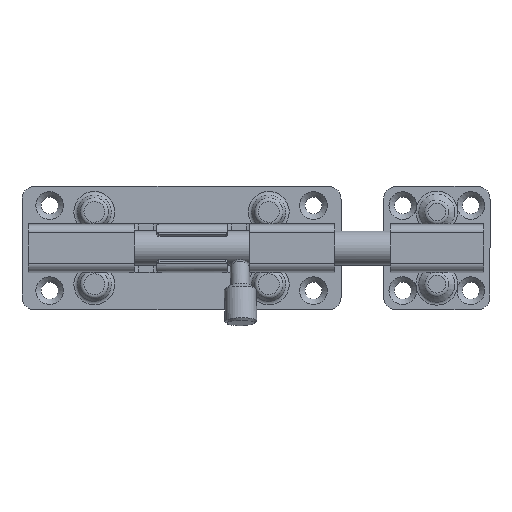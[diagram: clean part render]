
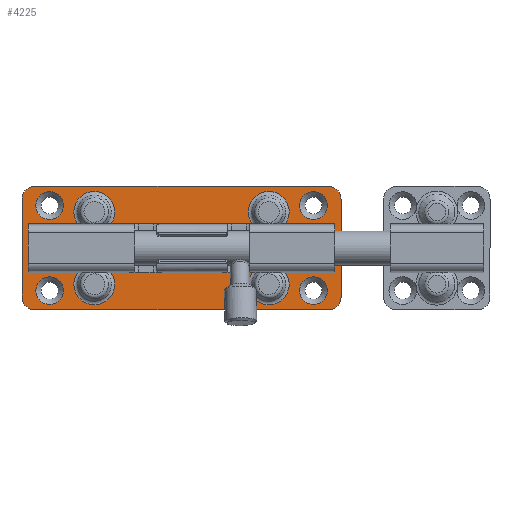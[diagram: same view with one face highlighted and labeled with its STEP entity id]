
A CAD part, top view. The second image highlights one B-rep face of the part: STEP entity #4225.
In plain terms, the highlighted planar face has unit normal (0, 0, 1).
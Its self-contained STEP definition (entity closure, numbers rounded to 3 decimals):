
#204=FACE_BOUND('',#752,.T.);
#205=FACE_BOUND('',#753,.T.);
#206=FACE_BOUND('',#754,.T.);
#207=FACE_BOUND('',#755,.T.);
#208=FACE_BOUND('',#756,.T.);
#209=FACE_BOUND('',#757,.T.);
#210=FACE_BOUND('',#758,.T.);
#211=FACE_BOUND('',#759,.T.);
#256=CIRCLE('',#4440,3.);
#258=CIRCLE('',#4443,3.25);
#262=CIRCLE('',#4451,4.804);
#268=CIRCLE('',#4466,3.);
#270=CIRCLE('',#4470,3.25);
#274=CIRCLE('',#4478,4.804);
#280=CIRCLE('',#4493,3.);
#282=CIRCLE('',#4496,3.25);
#286=CIRCLE('',#4504,4.804);
#292=CIRCLE('',#4520,3.);
#294=CIRCLE('',#4524,4.804);
#295=CIRCLE('',#4525,3.25);
#485=FACE_OUTER_BOUND('',#751,.T.);
#751=EDGE_LOOP('',(#2999,#3000,#3001,#3002,#3003,#3004,#3005,#3006));
#752=EDGE_LOOP('',(#3007));
#753=EDGE_LOOP('',(#3008,#3009,#3010,#3011));
#754=EDGE_LOOP('',(#3012,#3013,#3014,#3015));
#755=EDGE_LOOP('',(#3016));
#756=EDGE_LOOP('',(#3017));
#757=EDGE_LOOP('',(#3018,#3019,#3020,#3021));
#758=EDGE_LOOP('',(#3022,#3023,#3024,#3025));
#759=EDGE_LOOP('',(#3026));
#997=LINE('',#6145,#1335);
#999=LINE('',#6215,#1337);
#1002=LINE('',#6225,#1340);
#1006=LINE('',#6274,#1344);
#1011=LINE('',#6354,#1349);
#1015=LINE('',#6370,#1353);
#1019=LINE('',#6392,#1357);
#1020=LINE('',#6416,#1358);
#1025=LINE('',#6496,#1363);
#1029=LINE('',#6512,#1367);
#1032=LINE('',#6548,#1370);
#1037=LINE('',#6568,#1375);
#1039=LINE('',#6638,#1377);
#1042=LINE('',#6648,#1380);
#1046=LINE('',#6675,#1384);
#1048=LINE('',#6678,#1386);
#1335=VECTOR('',#4887,1.959);
#1337=VECTOR('',#4893,7.);
#1340=VECTOR('',#4898,1.959);
#1344=VECTOR('',#4948,1.959);
#1349=VECTOR('',#4957,7.);
#1353=VECTOR('',#4963,1.959);
#1357=VECTOR('',#4991,69.);
#1358=VECTOR('',#5016,1.959);
#1363=VECTOR('',#5025,7.);
#1367=VECTOR('',#5031,1.959);
#1370=VECTOR('',#5080,23.);
#1375=VECTOR('',#5087,1.959);
#1377=VECTOR('',#5093,7.);
#1380=VECTOR('',#5098,1.959);
#1384=VECTOR('',#5126,69.);
#1386=VECTOR('',#5130,23.);
#1741=VERTEX_POINT('',#6129);
#1745=VERTEX_POINT('',#6143);
#1752=VERTEX_POINT('',#6214);
#1754=VERTEX_POINT('',#6220);
#1758=VERTEX_POINT('',#6243);
#1759=VERTEX_POINT('',#6244);
#1762=VERTEX_POINT('',#6252);
#1767=VERTEX_POINT('',#6268);
#1768=VERTEX_POINT('',#6273);
#1778=VERTEX_POINT('',#6353);
#1780=VERTEX_POINT('',#6359);
#1784=VERTEX_POINT('',#6382);
#1785=VERTEX_POINT('',#6383);
#1788=VERTEX_POINT('',#6394);
#1793=VERTEX_POINT('',#6410);
#1794=VERTEX_POINT('',#6415);
#1804=VERTEX_POINT('',#6495);
#1806=VERTEX_POINT('',#6501);
#1810=VERTEX_POINT('',#6524);
#1811=VERTEX_POINT('',#6525);
#1814=VERTEX_POINT('',#6533);
#1819=VERTEX_POINT('',#6552);
#1823=VERTEX_POINT('',#6566);
#1830=VERTEX_POINT('',#6637);
#1832=VERTEX_POINT('',#6643);
#1836=VERTEX_POINT('',#6666);
#1837=VERTEX_POINT('',#6667);
#1840=VERTEX_POINT('',#6680);
#2165=EDGE_CURVE('',#1741,#1745,#997,.T.);
#2173=EDGE_CURVE('',#1745,#1752,#999,.T.);
#2177=EDGE_CURVE('',#1752,#1754,#1002,.T.);
#2185=EDGE_CURVE('',#1758,#1759,#256,.T.);
#2189=EDGE_CURVE('',#1762,#1762,#258,.T.);
#2193=EDGE_CURVE('',#1741,#1754,#262,.T.);
#2195=EDGE_CURVE('',#1767,#1768,#1006,.T.);
#2207=EDGE_CURVE('',#1768,#1778,#1011,.T.);
#2213=EDGE_CURVE('',#1778,#1780,#1015,.T.);
#2219=EDGE_CURVE('',#1784,#1785,#268,.T.);
#2224=EDGE_CURVE('',#1785,#1759,#1019,.T.);
#2225=EDGE_CURVE('',#1788,#1788,#270,.T.);
#2229=EDGE_CURVE('',#1767,#1780,#274,.T.);
#2231=EDGE_CURVE('',#1793,#1794,#1020,.T.);
#2243=EDGE_CURVE('',#1794,#1804,#1025,.T.);
#2249=EDGE_CURVE('',#1804,#1806,#1029,.T.);
#2255=EDGE_CURVE('',#1810,#1811,#280,.T.);
#2259=EDGE_CURVE('',#1814,#1814,#282,.T.);
#2263=EDGE_CURVE('',#1793,#1806,#286,.T.);
#2264=EDGE_CURVE('',#1758,#1810,#1032,.T.);
#2271=EDGE_CURVE('',#1819,#1823,#1037,.T.);
#2279=EDGE_CURVE('',#1823,#1830,#1039,.T.);
#2283=EDGE_CURVE('',#1830,#1832,#1042,.T.);
#2291=EDGE_CURVE('',#1836,#1837,#292,.T.);
#2295=EDGE_CURVE('',#1837,#1811,#1046,.T.);
#2297=EDGE_CURVE('',#1836,#1784,#1048,.T.);
#2298=EDGE_CURVE('',#1819,#1832,#294,.T.);
#2299=EDGE_CURVE('',#1840,#1840,#295,.T.);
#2999=ORIENTED_EDGE('',*,*,#2291,.F.);
#3000=ORIENTED_EDGE('',*,*,#2297,.T.);
#3001=ORIENTED_EDGE('',*,*,#2219,.T.);
#3002=ORIENTED_EDGE('',*,*,#2224,.T.);
#3003=ORIENTED_EDGE('',*,*,#2185,.F.);
#3004=ORIENTED_EDGE('',*,*,#2264,.T.);
#3005=ORIENTED_EDGE('',*,*,#2255,.T.);
#3006=ORIENTED_EDGE('',*,*,#2295,.F.);
#3007=ORIENTED_EDGE('',*,*,#2225,.F.);
#3008=ORIENTED_EDGE('',*,*,#2213,.F.);
#3009=ORIENTED_EDGE('',*,*,#2207,.F.);
#3010=ORIENTED_EDGE('',*,*,#2195,.F.);
#3011=ORIENTED_EDGE('',*,*,#2229,.T.);
#3012=ORIENTED_EDGE('',*,*,#2177,.T.);
#3013=ORIENTED_EDGE('',*,*,#2193,.F.);
#3014=ORIENTED_EDGE('',*,*,#2165,.T.);
#3015=ORIENTED_EDGE('',*,*,#2173,.T.);
#3016=ORIENTED_EDGE('',*,*,#2189,.T.);
#3017=ORIENTED_EDGE('',*,*,#2259,.F.);
#3018=ORIENTED_EDGE('',*,*,#2249,.F.);
#3019=ORIENTED_EDGE('',*,*,#2243,.F.);
#3020=ORIENTED_EDGE('',*,*,#2231,.F.);
#3021=ORIENTED_EDGE('',*,*,#2263,.T.);
#3022=ORIENTED_EDGE('',*,*,#2283,.T.);
#3023=ORIENTED_EDGE('',*,*,#2298,.F.);
#3024=ORIENTED_EDGE('',*,*,#2271,.T.);
#3025=ORIENTED_EDGE('',*,*,#2279,.T.);
#3026=ORIENTED_EDGE('',*,*,#2299,.T.);
#4060=PLANE('',#4523);
#4225=ADVANCED_FACE('',(#485,#204,#205,#206,#207,#208,#209,#210,#211),#4060,
 .T.);
#4440=AXIS2_PLACEMENT_3D('',#6245,#4918,#4919);
#4443=AXIS2_PLACEMENT_3D('',#6253,#4926,#4927);
#4451=AXIS2_PLACEMENT_3D('',#6264,#4942,#4943);
#4466=AXIS2_PLACEMENT_3D('',#6384,#4982,#4983);
#4470=AXIS2_PLACEMENT_3D('',#6395,#4994,#4995);
#4478=AXIS2_PLACEMENT_3D('',#6406,#5010,#5011);
#4493=AXIS2_PLACEMENT_3D('',#6526,#5050,#5051);
#4496=AXIS2_PLACEMENT_3D('',#6534,#5058,#5059);
#4504=AXIS2_PLACEMENT_3D('',#6545,#5074,#5075);
#4520=AXIS2_PLACEMENT_3D('',#6668,#5118,#5119);
#4523=AXIS2_PLACEMENT_3D('',#6677,#5128,#5129);
#4524=AXIS2_PLACEMENT_3D('',#6679,#5131,#5132);
#4525=AXIS2_PLACEMENT_3D('',#6681,#5133,#5134);
#4887=DIRECTION('',(0.,-1.,0.));
#4893=DIRECTION('',(-1.,0.,0.));
#4898=DIRECTION('',(0.,1.,0.));
#4918=DIRECTION('center_axis',(0.,0.,-1.));
#4919=DIRECTION('ref_axis',(-0.707,0.707,0.));
#4926=DIRECTION('center_axis',(0.,0.,-1.));
#4927=DIRECTION('ref_axis',(-1.,0.,0.));
#4942=DIRECTION('center_axis',(0.,0.,1.));
#4943=DIRECTION('ref_axis',(-1.,0.,0.));
#4948=DIRECTION('',(0.,-1.,0.));
#4957=DIRECTION('',(1.,0.,0.));
#4963=DIRECTION('',(0.,1.,0.));
#4982=DIRECTION('center_axis',(0.,0.,1.));
#4983=DIRECTION('ref_axis',(0.707,0.707,0.));
#4991=DIRECTION('',(-1.,0.,0.));
#4994=DIRECTION('center_axis',(0.,0.,1.));
#4995=DIRECTION('ref_axis',(1.,0.,0.));
#5010=DIRECTION('center_axis',(0.,0.,-1.));
#5011=DIRECTION('ref_axis',(1.,0.,0.));
#5016=DIRECTION('',(0.,1.,0.));
#5025=DIRECTION('',(-1.,0.,0.));
#5031=DIRECTION('',(0.,-1.,0.));
#5050=DIRECTION('center_axis',(0.,0.,1.));
#5051=DIRECTION('ref_axis',(-0.707,-0.707,0.));
#5058=DIRECTION('center_axis',(0.,0.,1.));
#5059=DIRECTION('ref_axis',(-1.,0.,0.));
#5074=DIRECTION('center_axis',(0.,0.,-1.));
#5075=DIRECTION('ref_axis',(-1.,0.,0.));
#5080=DIRECTION('',(0.,-1.,0.));
#5087=DIRECTION('',(0.,1.,0.));
#5093=DIRECTION('',(1.,0.,0.));
#5098=DIRECTION('',(0.,-1.,0.));
#5118=DIRECTION('center_axis',(0.,0.,-1.));
#5119=DIRECTION('ref_axis',(0.707,-0.707,0.));
#5126=DIRECTION('',(-1.,0.,0.));
#5128=DIRECTION('center_axis',(0.,0.,1.));
#5129=DIRECTION('ref_axis',(1.,0.,0.));
#5130=DIRECTION('',(0.,1.,0.));
#5131=DIRECTION('center_axis',(0.,0.,1.));
#5132=DIRECTION('ref_axis',(1.,0.,0.));
#5133=DIRECTION('center_axis',(0.,0.,-1.));
#5134=DIRECTION('ref_axis',(1.,0.,0.));
#6129=CARTESIAN_POINT('',(-17.,5.209,1.5));
#6143=CARTESIAN_POINT('',(-17.,3.25,1.5));
#6145=CARTESIAN_POINT('',(-17.,5.25,1.5));
#6214=CARTESIAN_POINT('',(-24.,3.25,1.5));
#6215=CARTESIAN_POINT('',(-21.375,3.25,1.5));
#6220=CARTESIAN_POINT('',(-24.,5.209,1.5));
#6225=CARTESIAN_POINT('',(-24.,6.5,1.5));
#6243=CARTESIAN_POINT('',(-37.5,11.5,1.5));
#6244=CARTESIAN_POINT('',(-34.5,14.5,1.5));
#6245=CARTESIAN_POINT('Origin',(-34.5,11.5,1.5));
#6252=CARTESIAN_POINT('',(-34.25,10.,1.5));
#6253=CARTESIAN_POINT('Origin',(-31.,10.,1.5));
#6264=CARTESIAN_POINT('Origin',(-20.5,8.5,1.5));
#6268=CARTESIAN_POINT('',(17.,5.209,1.5));
#6273=CARTESIAN_POINT('',(17.,3.25,1.5));
#6274=CARTESIAN_POINT('',(17.,5.25,1.5));
#6353=CARTESIAN_POINT('',(24.,3.25,1.5));
#6354=CARTESIAN_POINT('',(21.375,3.25,1.5));
#6359=CARTESIAN_POINT('',(24.,5.209,1.5));
#6370=CARTESIAN_POINT('',(24.,6.5,1.5));
#6382=CARTESIAN_POINT('',(37.5,11.5,1.5));
#6383=CARTESIAN_POINT('',(34.5,14.5,1.5));
#6384=CARTESIAN_POINT('Origin',(34.5,11.5,1.5));
#6392=CARTESIAN_POINT('',(0.,14.5,1.5));
#6394=CARTESIAN_POINT('',(34.25,10.,1.5));
#6395=CARTESIAN_POINT('Origin',(31.,10.,1.5));
#6406=CARTESIAN_POINT('Origin',(20.5,8.5,1.5));
#6410=CARTESIAN_POINT('',(-17.,-5.209,1.5));
#6415=CARTESIAN_POINT('',(-17.,-3.25,1.5));
#6416=CARTESIAN_POINT('',(-17.,-5.25,1.5));
#6495=CARTESIAN_POINT('',(-24.,-3.25,1.5));
#6496=CARTESIAN_POINT('',(-21.375,-3.25,1.5));
#6501=CARTESIAN_POINT('',(-24.,-5.209,1.5));
#6512=CARTESIAN_POINT('',(-24.,-6.5,1.5));
#6524=CARTESIAN_POINT('',(-37.5,-11.5,1.5));
#6525=CARTESIAN_POINT('',(-34.5,-14.5,1.5));
#6526=CARTESIAN_POINT('Origin',(-34.5,-11.5,1.5));
#6533=CARTESIAN_POINT('',(-34.25,-10.,1.5));
#6534=CARTESIAN_POINT('Origin',(-31.,-10.,1.5));
#6545=CARTESIAN_POINT('Origin',(-20.5,-8.5,1.5));
#6548=CARTESIAN_POINT('',(-37.5,14.5,1.5));
#6552=CARTESIAN_POINT('',(17.,-5.209,1.5));
#6566=CARTESIAN_POINT('',(17.,-3.25,1.5));
#6568=CARTESIAN_POINT('',(17.,-5.25,1.5));
#6637=CARTESIAN_POINT('',(24.,-3.25,1.5));
#6638=CARTESIAN_POINT('',(21.375,-3.25,1.5));
#6643=CARTESIAN_POINT('',(24.,-5.209,1.5));
#6648=CARTESIAN_POINT('',(24.,-6.5,1.5));
#6666=CARTESIAN_POINT('',(37.5,-11.5,1.5));
#6667=CARTESIAN_POINT('',(34.5,-14.5,1.5));
#6668=CARTESIAN_POINT('Origin',(34.5,-11.5,1.5));
#6675=CARTESIAN_POINT('',(0.,-14.5,1.5));
#6677=CARTESIAN_POINT('Origin',(18.75,-7.25,1.5));
#6678=CARTESIAN_POINT('',(37.5,-14.5,1.5));
#6679=CARTESIAN_POINT('Origin',(20.5,-8.5,1.5));
#6680=CARTESIAN_POINT('',(34.25,-10.,1.5));
#6681=CARTESIAN_POINT('Origin',(31.,-10.,1.5));
